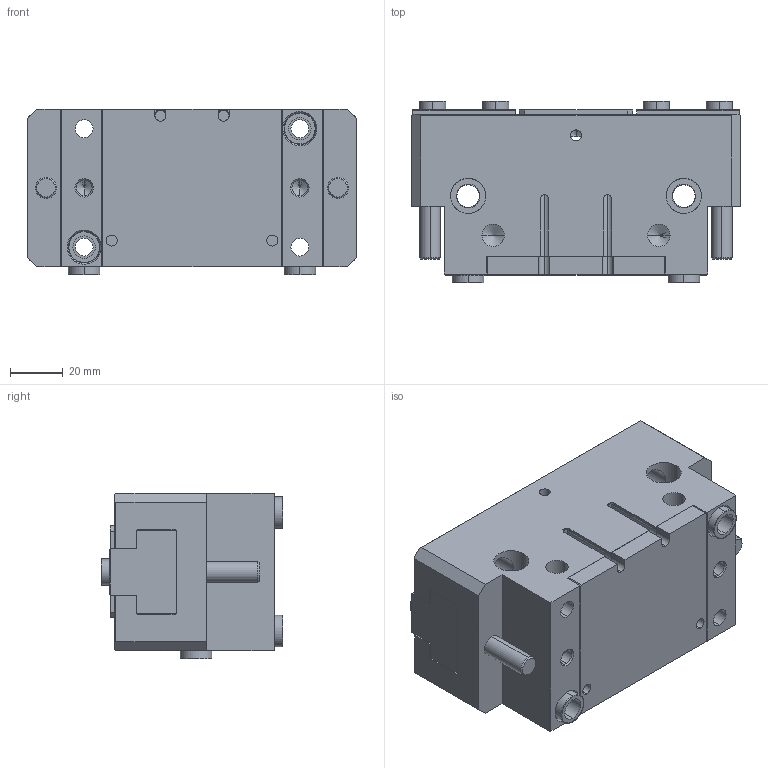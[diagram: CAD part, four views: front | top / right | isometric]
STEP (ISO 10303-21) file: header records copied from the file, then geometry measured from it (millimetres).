
FILE_DESCRIPTION (( 'STEP AP203' ), '1' );
FILE_NAME ('OPP-125-C1-原始檔-組合-W106.04.20.STEP', '2017-04-20T00:46:07', ( 'DanyaoCAD' ), ( '' ), 'SwSTEP 2.0', 'SolidWorks 2016', '' );
FILE_SCHEMA (( 'CONFIG_CONTROL_DESIGN' ));
Length unit declared in the file: millimetre
Products named in the file (7): OPP-125-C1-原始檔-組合-W106.04.20; Griffa; Fondello; Corpo; Coperchio; Boccola _0; Boccola _2
Assembly tree (13 placements, depth 2):
  OPP-125-C1-原始檔-組合-W106.04.20
    Corpo
    Griffa  x2
    Fondello
    Coperchio
    Boccola _0  x4
    Boccola _2  x4
Bounding box: 125 x 69.1 x 63.1 mm (x, y, z)
Volume: 384533.2 mm3; surface area: 89962.7 mm2
Topology: 13 solids, 13 shells, 1192 faces, 3232 edges, 2100 vertices
Faces by surface type: bspline 672, plane 302, cylinder 146, cone 72
Entity records: 52279 total; most frequent: CARTESIAN_POINT 28033, ORIENTED_EDGE 5952, EDGE_CURVE 2976, DIRECTION 2808, VERTEX_POINT 1964, VECTOR 1398, LINE 1398, B_SPLINE_CURVE_WITH_KNOTS 1321
